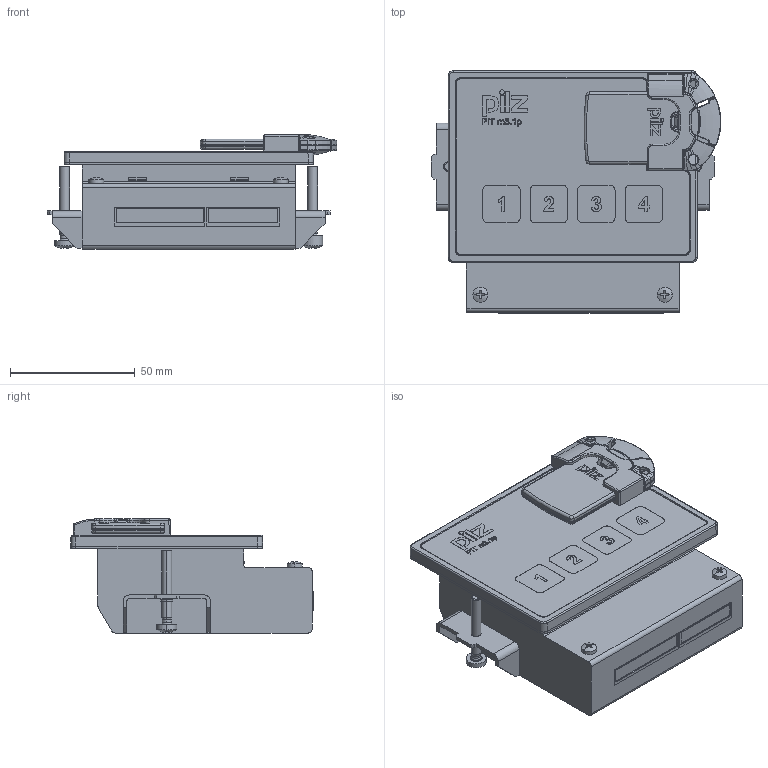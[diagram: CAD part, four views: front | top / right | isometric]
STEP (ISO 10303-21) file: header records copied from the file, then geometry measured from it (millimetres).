
FILE_DESCRIPTION((''),'2;1');
FILE_NAME('2008208','2011-02-09T',('merz'),(''),'PRO/ENGINEER BY PARAMETRIC TECHNOLOGY CORPORATION, 2009380','PRO/ENGINEER BY PARAMETRIC TECHNOLOGY CORPORATION, 2009380','');
FILE_SCHEMA(('AUTOMOTIVE_DESIGN_CC2 { 1 2 10303 214 -1 1 5 2 }'));
Products named in the file (1): 2008208
Bounding box: 116.33 x 97.3 x 45.8 mm (x, y, z)
Volume: 276069.1 mm3; surface area: 55516.1 mm2
Topology: 5 solids, 6 shells, 1830 faces, 4820 edges, 3048 vertices
Faces by surface type: plane 846, bspline 391, cylinder 342, extrusion 129, torus 52, sphere 44, cone 26
Entity records: 84980 total; most frequent: CARTESIAN_POINT 28025, ORIENTED_EDGE 9632, DIRECTION 7463, PRESENTATION_STYLE_ASSIGNMENT 4833, STYLED_ITEM 4828, CURVE_STYLE 4822, EDGE_CURVE 4816, VERTEX_POINT 3044
